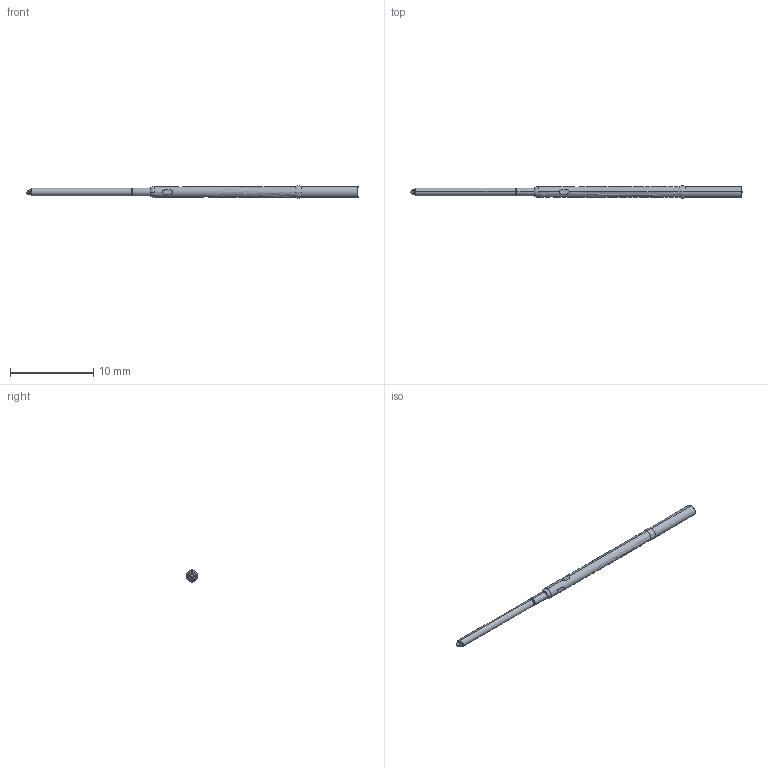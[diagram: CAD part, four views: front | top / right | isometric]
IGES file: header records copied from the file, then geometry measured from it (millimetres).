
Start section: SolidWorks IGES file using analytic representation for surfaces
Global section: file name: Z:\probe solid model mockups\Solidworks models\DER-075\DER-075T Full.IGS; native system: SolidWorks 2006 by SolidWorks Corporation; preprocessor: SolidWorks 2006 by SolidWorks Corporation; author: tsakatani; date: 071218.084940; units: inch
Bounding box: 39.87 x 1.46 x 1.47 mm (x, y, z)
Surface area: 230.3 mm2 (no closed solid volume)
Topology: 0 solids, 0 shells, 39 faces, 410 edges, 410 vertices
Faces by surface type: revolution 29, bspline 10
